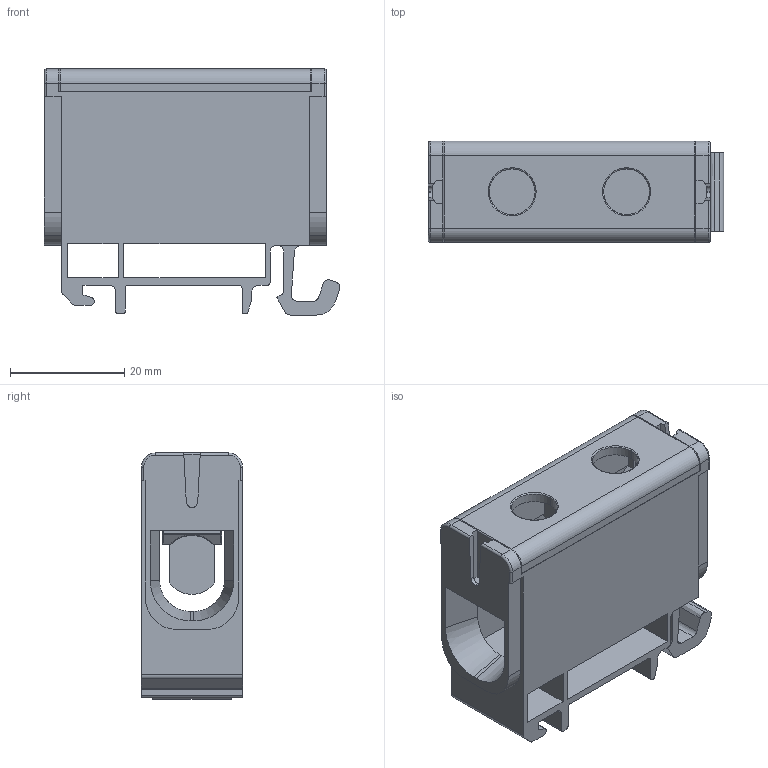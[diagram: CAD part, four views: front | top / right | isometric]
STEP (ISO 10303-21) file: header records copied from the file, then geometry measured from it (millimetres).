
FILE_DESCRIPTION((''),'2;1');
FILE_NAME('KE61-1_ASM','2016-06-13T',('Administrator'),(''),'PRO/ENGINEER BY PARAMETRIC TECHNOLOGY CORPORATION, 2009360','PRO/ENGINEER BY PARAMETRIC TECHNOLOGY CORPORATION, 2009360','');
FILE_SCHEMA(('CONFIG_CONTROL_DESIGN'));
Length unit declared in the file: millimetre
Products named in the file (4): KE61-ZUO_9; KE61-GAI_3; KE61_ASM_3_ASM; KE61-1_ASM
Assembly tree (3 placements, depth 3):
  KE61-1_ASM
    KE61_ASM_3_ASM
      KE61-ZUO_9
      KE61-GAI_3
Bounding box: 51.61 x 17.7 x 43 mm (x, y, z)
Volume: 10379.4 mm3; surface area: 15518.3 mm2
Topology: 2 solids, 2 shells, 259 faces, 749 edges, 488 vertices
Faces by surface type: plane 155, cylinder 78, torus 12, bspline 8, sphere 4, extrusion 2
Entity records: 9094 total; most frequent: CARTESIAN_POINT 2156, ORIENTED_EDGE 1490, DIRECTION 1373, EDGE_CURVE 745, VECTOR 525, LINE 523, VERTEX_POINT 488, AXIS2_PLACEMENT_3D 424
